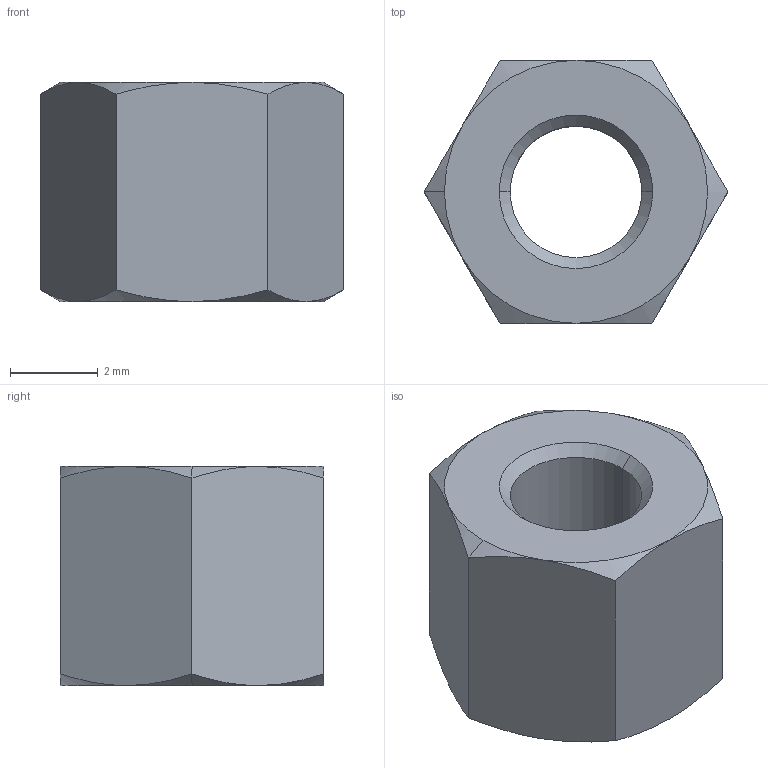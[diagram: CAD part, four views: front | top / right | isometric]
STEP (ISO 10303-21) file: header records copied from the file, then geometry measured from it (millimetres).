
FILE_DESCRIPTION (( 'STEP AP203' ), '1' );
FILE_NAME ('N0503.030-005-NP.step', '2025-02-27T14:40:26', ( '' ), ( '' ), 'SwSTEP 2.0', 'SolidWorks 2019', '' );
FILE_SCHEMA (( 'CONFIG_CONTROL_DESIGN' ));
Length unit declared in the file: millimetre
Products named in the file (1): N0503.030-005-NP
Bounding box: 6.93 x 6 x 5 mm (x, y, z)
Volume: 119.4 mm3; surface area: 193.7 mm2
Topology: 1 solids, 1 shells, 28 faces, 60 edges, 34 vertices
Faces by surface type: cone 18, plane 8, cylinder 2
Entity records: 875 total; most frequent: CARTESIAN_POINT 223, ORIENTED_EDGE 120, DIRECTION 116, EDGE_CURVE 60, AXIS2_PLACEMENT_3D 51, VERTEX_POINT 34, EDGE_LOOP 30, FACE_OUTER_BOUND 28
